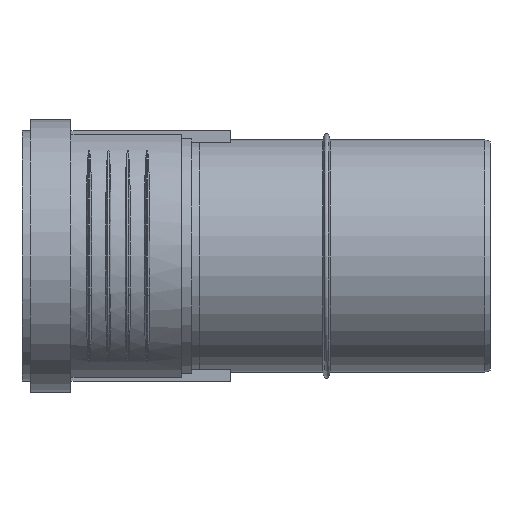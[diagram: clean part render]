
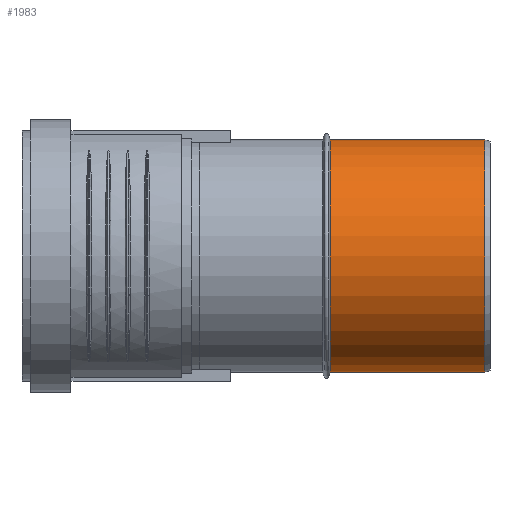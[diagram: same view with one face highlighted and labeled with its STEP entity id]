
A CAD part, left-side view. The second image highlights one B-rep face of the part: STEP entity #1983.
In plain terms, the highlighted cylindrical face has radius 45.1 mm (diameter 90.2 mm), a full revolution.
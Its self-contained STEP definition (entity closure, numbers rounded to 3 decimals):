
#259=CYLINDRICAL_SURFACE($,#2117,45.1);
#416=FACE_BOUND($,#701,.T.);
#589=FACE_OUTER_BOUND($,#700,.T.);
#700=EDGE_LOOP($,(#1448));
#701=EDGE_LOOP($,(#1449));
#881=CIRCLE($,#2115,45.1);
#883=CIRCLE($,#2118,45.1);
#978=VERTEX_POINT($,#2934);
#980=VERTEX_POINT($,#2939);
#1180=EDGE_CURVE($,#978,#978,#881,.T.);
#1182=EDGE_CURVE($,#980,#980,#883,.T.);
#1448=ORIENTED_EDGE($,*,*,#1182,.T.);
#1449=ORIENTED_EDGE($,*,*,#1180,.F.);
#1983=ADVANCED_FACE($,(#589,#416),#259,.T.);
#2115=AXIS2_PLACEMENT_3D($,#2935,#2346,#2347);
#2117=AXIS2_PLACEMENT_3D($,#2938,#2350,#2351);
#2118=AXIS2_PLACEMENT_3D($,#2940,#2352,#2353);
#2346=DIRECTION('center_axis',(0.,-1.,0.));
#2347=DIRECTION('ref_axis',(1.,0.,0.));
#2350=DIRECTION('center_axis',(0.,1.,0.));
#2351=DIRECTION('ref_axis',(1.,0.,0.));
#2352=DIRECTION('center_axis',(0.,-1.,0.));
#2353=DIRECTION('ref_axis',(1.,0.,0.));
#2934=CARTESIAN_POINT('',(-45.1,2.,0.));
#2935=CARTESIAN_POINT('Origin',(0.,2.,0.));
#2938=CARTESIAN_POINT('Origin',(0.,0.,0.));
#2939=CARTESIAN_POINT('',(-45.1,62.,0.));
#2940=CARTESIAN_POINT('Origin',(0.,62.,0.));
